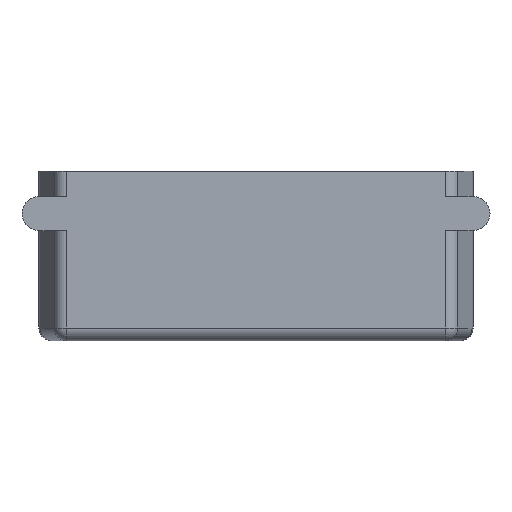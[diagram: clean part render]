
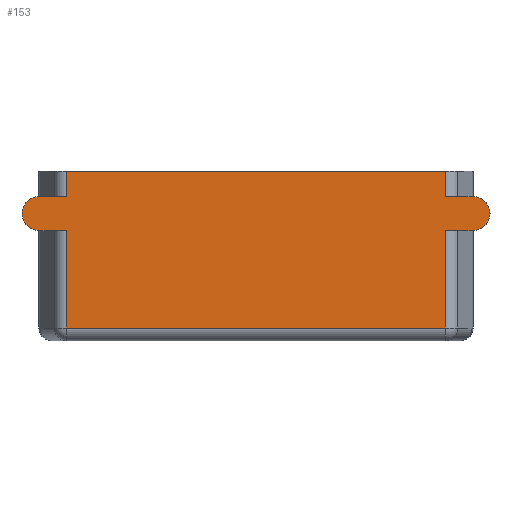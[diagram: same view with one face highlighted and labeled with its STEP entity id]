
A CAD part, front view. The second image highlights one B-rep face of the part: STEP entity #153.
In plain terms, the highlighted planar face has unit normal (0, -1, 0).
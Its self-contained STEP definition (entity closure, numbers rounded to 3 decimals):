
#91 = EDGE_LOOP ( 'NONE', ( #1108, #1124, #1128, #1110, #1131, #1101, #1074, #1081, #1073, #1075, #1091, #1095 ) ) ;
#153 = ADVANCED_FACE ( 'NONE', ( #431 ), #1166, .F. ) ;
#209 = CIRCLE ( 'NONE', #527, 4. ) ;
#211 = LINE ( 'NONE', #351, #213 ) ;
#213 = VECTOR ( 'NONE', #321, 1000. ) ;
#217 = LINE ( 'NONE', #276, #231 ) ;
#222 = LINE ( 'NONE', #295, #225 ) ;
#225 = VECTOR ( 'NONE', #294, 1000. ) ;
#230 = LINE ( 'NONE', #268, #233 ) ;
#231 = VECTOR ( 'NONE', #289, 1000. ) ;
#233 = VECTOR ( 'NONE', #267, 1000. ) ;
#234 = CIRCLE ( 'NONE', #668, 4. ) ;
#235 = LINE ( 'NONE', #266, #237 ) ;
#236 = LINE ( 'NONE', #251, #239 ) ;
#237 = VECTOR ( 'NONE', #265, 1000. ) ;
#239 = VECTOR ( 'NONE', #1260, 1000. ) ;
#246 = LINE ( 'NONE', #1483, #248 ) ;
#248 = VECTOR ( 'NONE', #1482, 1000. ) ;
#251 = CARTESIAN_POINT ( 'NONE',  ( -44.782, -30.5, 40. ) ) ;
#254 = DIRECTION ( 'NONE',  ( -1., 0., 0. ) ) ;
#255 = DIRECTION ( 'NONE',  ( 0., -1., 0. ) ) ;
#256 = CARTESIAN_POINT ( 'NONE',  ( 51.25, -30.5, 30. ) ) ;
#265 = DIRECTION ( 'NONE',  ( -1., 0., 0. ) ) ;
#266 = CARTESIAN_POINT ( 'NONE',  ( -51.25, -30.5, 34. ) ) ;
#267 = DIRECTION ( 'NONE',  ( -1., 0., 0. ) ) ;
#268 = CARTESIAN_POINT ( 'NONE',  ( 51.25, -30.5, 34. ) ) ;
#270 = CARTESIAN_POINT ( 'NONE',  ( -51.25, -30.5, 30. ) ) ;
#273 = DIRECTION ( 'NONE',  ( 0., -1., 0. ) ) ;
#276 = CARTESIAN_POINT ( 'NONE',  ( -51.25, -30.5, 26. ) ) ;
#289 = DIRECTION ( 'NONE',  ( 1., 0., 0. ) ) ;
#294 = DIRECTION ( 'NONE',  ( 1., 0., 0. ) ) ;
#295 = CARTESIAN_POINT ( 'NONE',  ( 44.782, -30.5, 3. ) ) ;
#321 = DIRECTION ( 'NONE',  ( 0., 0., -1. ) ) ;
#344 = DIRECTION ( 'NONE',  ( -1., 0., 0. ) ) ;
#351 = CARTESIAN_POINT ( 'NONE',  ( 44.782, -30.5, 40. ) ) ;
#395 = CARTESIAN_POINT ( 'NONE',  ( -51.25, -30.5, 26. ) ) ;
#431 = FACE_OUTER_BOUND ( 'NONE', #91, .T. ) ;
#441 = LINE ( 'NONE', #847, #443 ) ;
#443 = VECTOR ( 'NONE', #846, 1000. ) ;
#527 = AXIS2_PLACEMENT_3D ( 'NONE', #270, #273, #344 ) ;
#615 = EDGE_CURVE ( 'NONE', #1503, #1540, #441, .T. ) ;
#653 = EDGE_CURVE ( 'NONE', #1461, #1564, #211, .T. ) ;
#654 = EDGE_CURVE ( 'NONE', #1469, #1589, #209, .T. ) ;
#660 = EDGE_CURVE ( 'NONE', #1540, #1456, #222, .T. ) ;
#665 = EDGE_CURVE ( 'NONE', #1589, #1503, #217, .T. ) ;
#666 = EDGE_CURVE ( 'NONE', #1460, #1564, #230, .T. ) ;
#668 = AXIS2_PLACEMENT_3D ( 'NONE', #256, #255, #254 ) ;
#672 = EDGE_CURVE ( 'NONE', #1470, #1460, #234, .T. ) ;
#673 = EDGE_CURVE ( 'NONE', #1457, #1469, #235, .T. ) ;
#679 = EDGE_CURVE ( 'NONE', #1451, #1457, #236, .T. ) ;
#697 = AXIS2_PLACEMENT_3D ( 'NONE', #1139, #1138, #1182 ) ;
#719 = EDGE_CURVE ( 'NONE', #1536, #1456, #246, .T. ) ;
#729 = EDGE_CURVE ( 'NONE', #1451, #1461, #1269, .T. ) ;
#741 = EDGE_CURVE ( 'NONE', #1536, #1470, #1290, .T. ) ;
#846 = DIRECTION ( 'NONE',  ( 0., 0., -1. ) ) ;
#847 = CARTESIAN_POINT ( 'NONE',  ( -44.782, -30.5, 40. ) ) ;
#1073 = ORIENTED_EDGE ( 'NONE', *, *, #679, .T. ) ;
#1074 = ORIENTED_EDGE ( 'NONE', *, *, #653, .F. ) ;
#1075 = ORIENTED_EDGE ( 'NONE', *, *, #673, .T. ) ;
#1081 = ORIENTED_EDGE ( 'NONE', *, *, #729, .F. ) ;
#1091 = ORIENTED_EDGE ( 'NONE', *, *, #654, .T. ) ;
#1095 = ORIENTED_EDGE ( 'NONE', *, *, #665, .T. ) ;
#1101 = ORIENTED_EDGE ( 'NONE', *, *, #666, .T. ) ;
#1108 = ORIENTED_EDGE ( 'NONE', *, *, #615, .T. ) ;
#1110 = ORIENTED_EDGE ( 'NONE', *, *, #741, .T. ) ;
#1124 = ORIENTED_EDGE ( 'NONE', *, *, #660, .T. ) ;
#1128 = ORIENTED_EDGE ( 'NONE', *, *, #719, .F. ) ;
#1131 = ORIENTED_EDGE ( 'NONE', *, *, #672, .T. ) ;
#1138 = DIRECTION ( 'NONE',  ( 0., 1., 0. ) ) ;
#1139 = CARTESIAN_POINT ( 'NONE',  ( 44.782, -30.5, 40. ) ) ;
#1166 = PLANE ( 'NONE',  #697 ) ;
#1182 = DIRECTION ( 'NONE',  ( -1., 0., 0. ) ) ;
#1260 = DIRECTION ( 'NONE',  ( 0., 0., -1. ) ) ;
#1269 = LINE ( 'NONE', #1728, #1272 ) ;
#1272 = VECTOR ( 'NONE', #1729, 1000. ) ;
#1290 = LINE ( 'NONE', #1744, #1292 ) ;
#1292 = VECTOR ( 'NONE', #1745, 1000. ) ;
#1355 = CARTESIAN_POINT ( 'NONE',  ( -44.782, -30.5, 40. ) ) ;
#1371 = CARTESIAN_POINT ( 'NONE',  ( 44.782, -30.5, 3. ) ) ;
#1372 = CARTESIAN_POINT ( 'NONE',  ( -44.782, -30.5, 34. ) ) ;
#1374 = CARTESIAN_POINT ( 'NONE',  ( 51.25, -30.5, 34. ) ) ;
#1375 = CARTESIAN_POINT ( 'NONE',  ( 44.782, -30.5, 40. ) ) ;
#1382 = CARTESIAN_POINT ( 'NONE',  ( -51.25, -30.5, 34. ) ) ;
#1383 = CARTESIAN_POINT ( 'NONE',  ( 51.25, -30.5, 26. ) ) ;
#1395 = CARTESIAN_POINT ( 'NONE',  ( -44.782, -30.5, 26. ) ) ;
#1422 = CARTESIAN_POINT ( 'NONE',  ( 44.782, -30.5, 26. ) ) ;
#1426 = CARTESIAN_POINT ( 'NONE',  ( -44.782, -30.5, 3. ) ) ;
#1433 = CARTESIAN_POINT ( 'NONE',  ( 44.782, -30.5, 34. ) ) ;
#1451 = VERTEX_POINT ( 'NONE', #1355 ) ;
#1456 = VERTEX_POINT ( 'NONE', #1371 ) ;
#1457 = VERTEX_POINT ( 'NONE', #1372 ) ;
#1460 = VERTEX_POINT ( 'NONE', #1374 ) ;
#1461 = VERTEX_POINT ( 'NONE', #1375 ) ;
#1469 = VERTEX_POINT ( 'NONE', #1382 ) ;
#1470 = VERTEX_POINT ( 'NONE', #1383 ) ;
#1482 = DIRECTION ( 'NONE',  ( 0., 0., -1. ) ) ;
#1483 = CARTESIAN_POINT ( 'NONE',  ( 44.782, -30.5, 40. ) ) ;
#1503 = VERTEX_POINT ( 'NONE', #1395 ) ;
#1536 = VERTEX_POINT ( 'NONE', #1422 ) ;
#1540 = VERTEX_POINT ( 'NONE', #1426 ) ;
#1564 = VERTEX_POINT ( 'NONE', #1433 ) ;
#1589 = VERTEX_POINT ( 'NONE', #395 ) ;
#1728 = CARTESIAN_POINT ( 'NONE',  ( 44.782, -30.5, 40. ) ) ;
#1729 = DIRECTION ( 'NONE',  ( 1., 0., 0. ) ) ;
#1744 = CARTESIAN_POINT ( 'NONE',  ( 51.25, -30.5, 26. ) ) ;
#1745 = DIRECTION ( 'NONE',  ( 1., 0., 0. ) ) ;
